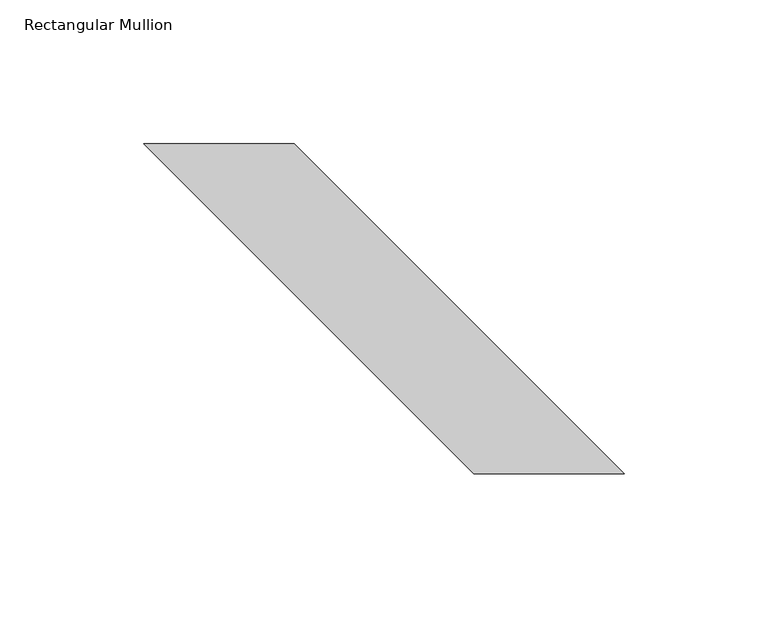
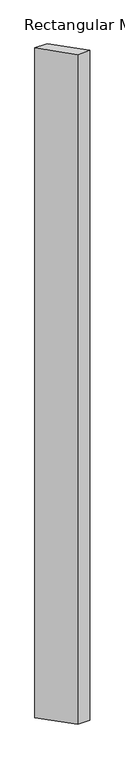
"""IFC4 building model written with IfcOpenShell, lengths in millimetres: member geometry, Rectangular Mullion : RSen_21_CWM_blade - linear 200_gen_duco projects."""

import ifcopenshell
import ifcopenshell.guid

model = None  # the IFC model being written
_history = None  # IfcOwnerHistory: only IFC2X3 demands one
_inside = {}  # id of a spatial element -> (the spatial element, [elements in it])
_under = {}  # id of a project, library or spatial element -> (it, [spatial elements below it])
_declared = {}  # id of a project -> (the project, [libraries it declares])
_typed = {}  # id of a type object -> (the type object, [elements of that type])
_made_of = {}  # id of a material, layer set ... -> (it, [elements and type objects made of it])


def new_model(schema):
    """Start an empty IFC model of exactly this schema.

    Asked for "IFC4X3", IfcOpenShell would pick the latest addendum, in which some entities
    have other attributes; the version numbers below select the first issue.
    IFC2X3 requires an IfcOwnerHistory on every rooted entity: one is made here for all.
    """
    global model, _history
    if schema == "IFC4X3":
        model = ifcopenshell.file(schema_version=(4, 3, 0, 0))
    else:
        model = ifcopenshell.file(schema=schema)
    _inside.clear()
    _under.clear()
    _declared.clear()
    _typed.clear()
    _made_of.clear()
    _history = None
    if model.schema == "IFC2X3":
        org = make("IfcOrganization", Name="unknown")
        user = make(
            "IfcPersonAndOrganization",
            ThePerson=make("IfcPerson", FamilyName="unknown"),
            TheOrganization=org,
        )
        app = make(
            "IfcApplication",
            ApplicationDeveloper=org,
            Version="unknown",
            ApplicationFullName="unknown",
            ApplicationIdentifier="unknown",
        )
        _history = make(
            "IfcOwnerHistory",
            OwningUser=user,
            OwningApplication=app,
            ChangeAction="ADDED",
            CreationDate=0,
        )
    return model


def make(cls, **values):
    """One entity of the class cls with the attributes given. An attribute that is None is left unset."""
    return model.create_entity(
        cls, **{name: value for name, value in values.items() if value is not None}
    )


def rooted(cls, **values):
    """An entity with a GlobalId (a new one), such as an element, a storey or a relation."""
    return make(cls, GlobalId=ifcopenshell.guid.new(), OwnerHistory=_history, **values)


def si_unit(unit_type, name, prefix=None):
    """IfcSIUnit, for example si_unit("LENGTHUNIT", "METRE", prefix="MILLI")."""
    return make("IfcSIUnit", UnitType=unit_type, Prefix=prefix, Name=name)


def assignment(units):
    """IfcUnitAssignment: the units of a project."""
    return None if units is None else make("IfcUnitAssignment", Units=units)


def point(xyz):
    """IfcCartesianPoint."""
    return None if xyz is None else make("IfcCartesianPoint", Coordinates=xyz)


def direction(xyz):
    """IfcDirection."""
    return None if xyz is None else make("IfcDirection", DirectionRatios=xyz)


def frame(location, z_axis=None, x_axis=None):
    """IfcAxis2Placement3D, a coordinate frame: its origin and axes. An axis left out is left unset."""
    return make(
        "IfcAxis2Placement3D",
        Location=point(location),
        Axis=direction(z_axis),
        RefDirection=direction(x_axis),
    )


def origin():
    """The frame at (0, 0, 0) with its axes left unset."""
    return frame((0.0, 0.0, 0.0))


def place(relative_to, where):
    """IfcLocalPlacement: puts the frame where relative to a parent placement (None: the world)."""
    return make(
        "IfcLocalPlacement", PlacementRelTo=relative_to, RelativePlacement=where
    )


def context(
    kind, dimensions, precision=None, world=None, true_north=None, identifier=None
):
    """IfcGeometricRepresentationContext, for example the 3D "Model" context."""
    return make(
        "IfcGeometricRepresentationContext",
        ContextIdentifier=identifier,
        ContextType=kind,
        CoordinateSpaceDimension=dimensions,
        Precision=precision,
        WorldCoordinateSystem=world,
        TrueNorth=true_north,
    )


def project(units=None, contexts=None):
    """IfcProject with its units and contexts."""
    return rooted(
        "IfcProject",
        Name="project",
        RepresentationContexts=contexts,
        UnitsInContext=assignment(units),
    )


def spatial(cls, under=None, at=None, **own):
    """A site, building, storey or space (cls), placed at a placement, below another one or the project."""
    s = rooted(cls, ObjectPlacement=at, **own)
    if under is not None:
        _under.setdefault(under.id(), (under, []))[1].append(s)
    return s


def polyline(points):
    """IfcPolyline through the points."""
    return make("IfcPolyline", Points=[point(p) for p in points])


def outline(outer, holes=None, kind="AREA"):
    """IfcArbitraryClosedProfileDef: a profile drawn as a closed curve; with holes, ...WithVoids."""
    if holes is None:
        return make("IfcArbitraryClosedProfileDef", ProfileType=kind, OuterCurve=outer)
    return make(
        "IfcArbitraryProfileDefWithVoids",
        ProfileType=kind,
        OuterCurve=outer,
        InnerCurves=holes,
    )


def extrude(swept, where, along, depth):
    """IfcExtrudedAreaSolid: the profile swept, set in the frame where, extruded along a direction by depth."""
    return make(
        "IfcExtrudedAreaSolid",
        SweptArea=swept,
        Position=where,
        ExtrudedDirection=direction(along),
        Depth=depth,
    )


def shape(context_of_items, identifier, shape_type, items):
    """IfcShapeRepresentation: the items that make up one representation, for example the "Body"."""
    return make(
        "IfcShapeRepresentation",
        ContextOfItems=context_of_items,
        RepresentationIdentifier=identifier,
        RepresentationType=shape_type,
        Items=items,
    )


def source(mapping_origin, context_of_items, identifier, shape_type, items):
    """IfcRepresentationMap: a shape defined once, which mapped items show again and again."""
    return make(
        "IfcRepresentationMap",
        MappingOrigin=mapping_origin,
        MappedRepresentation=shape(context_of_items, identifier, shape_type, items),
    )


def transform(
    local_origin,
    x_axis=None,
    y_axis=None,
    z_axis=None,
    scale=None,
    scale2=None,
    scale3=None,
    uniform=True,
):
    """IfcCartesianTransformationOperator3D, or its non-uniform kind. x_axis, y_axis, z_axis: its Axis1, 2, 3."""
    if uniform:
        return make(
            "IfcCartesianTransformationOperator3D",
            Axis1=direction(x_axis),
            Axis2=direction(y_axis),
            LocalOrigin=point(local_origin),
            Scale=scale,
            Axis3=direction(z_axis),
        )
    return make(
        "IfcCartesianTransformationOperator3DnonUniform",
        Axis1=direction(x_axis),
        Axis2=direction(y_axis),
        LocalOrigin=point(local_origin),
        Scale=scale,
        Axis3=direction(z_axis),
        Scale2=scale2,
        Scale3=scale3,
    )


def mapped(mapping_source, mapping_target):
    """IfcMappedItem: shows the shape of a source again, moved by a transform."""
    return make(
        "IfcMappedItem", MappingSource=mapping_source, MappingTarget=mapping_target
    )


def made_of(thing, what):
    """Note that an element or type object is made of a material, layer set ...; save() writes the relation."""
    if what is not None:
        _made_of.setdefault(what.id(), (what, []))[1].append(thing)
    return thing


def element(
    cls,
    number,
    at=None,
    inside=None,
    cuts=None,
    type_object=None,
    material=None,
    context=None,
    identifier="Body",
    shape_type=None,
    held_by="IfcProductDefinitionShape",
    body=None,
    shapes=None,
    **own,
):
    """One element of the class cls, such as IfcWall. Its Tag is "e" and its number.

    at: its placement. inside: the storey or other place that contains it. cuts: it is an
    opening in that element (IfcRelVoidsElement). A single representation is given by context,
    identifier, shape_type and body (its items); several are given by shapes. held_by: the class
    of the entity that holds the representations. save() writes the other relations.
    """
    e = rooted(cls, Tag="e%d" % number, ObjectPlacement=at, **own)
    if body is not None:
        shapes = [shape(context, identifier, shape_type, body)]
    if shapes is not None:
        e.Representation = make(held_by, Representations=shapes)
    if inside is not None:
        _inside.setdefault(inside.id(), (inside, []))[1].append(e)
    if cuts is not None:
        rooted(
            "IfcRelVoidsElement", RelatingBuildingElement=cuts, RelatedOpeningElement=e
        )
    if type_object is not None:
        _typed.setdefault(type_object.id(), (type_object, []))[1].append(e)
    return made_of(e, material)


def aggregate(whole, parts):
    """IfcRelAggregates: a whole, such as a stair, and the parts it consists of."""
    return rooted("IfcRelAggregates", RelatingObject=whole, RelatedObjects=parts)


def save(model, path):
    """Write the relations noted so far, then the file.

    IfcRelAggregates (storeys below a building ...), IfcRelContainedInSpatialStructure (elements
    in a storey), IfcRelDefinesByType, IfcRelAssociatesMaterial and IfcRelDeclares: one each for
    every whole, place, type object, material and project.
    """
    for whole, parts in _under.values():
        aggregate(whole, parts)
    for where, things in _inside.values():
        rooted(
            "IfcRelContainedInSpatialStructure",
            RelatedElements=things,
            RelatingStructure=where,
        )
    for kind, things in _typed.values():
        rooted("IfcRelDefinesByType", RelatedObjects=things, RelatingType=kind)
    for what, things in _made_of.values():
        rooted("IfcRelAssociatesMaterial", RelatedObjects=things, RelatingMaterial=what)
    for by, libraries in _declared.values():
        rooted("IfcRelDeclares", RelatingContext=by, RelatedDefinitions=libraries)
    model.write(path)


def rectangular_mullion_321bab66(model_context):
    return source(origin(), model_context, "Body", "SweptSolid", [
        extrude(outline(polyline([(31.1126984, 8.7243507), (-83.4386002, 123.2756493), (-31.1126984, 123.2756493), (83.4386002, 8.7243507), (31.1126984, 8.7243507)])), frame((0.0, 0.0, -3000.0), z_axis=(0.0, 0.0, 1.0), x_axis=(1.0, 0.0, 0.0)), (0.0, 0.0, 1.0), 3000.0),
    ])


if __name__ == "__main__":
    model = new_model("IFC4")
    model_context = context("Model", 3, world=origin())
    ifc_project = project(units=[si_unit("LENGTHUNIT", "METRE", prefix="MILLI")], contexts=[model_context])
    site = spatial("IfcSite", under=ifc_project)
    building = spatial("IfcBuilding", under=site)
    placement = place(None, origin())
    rectangular_mullion_shape = rectangular_mullion_321bab66(model_context)
    element("IfcMember", 1, ObjectType="Rectangular Mullion : RSen_21_CWM_blade - linear 200_gen_duco projects", at=placement, inside=building, context=model_context, shape_type="MappedRepresentation", body=[
        mapped(rectangular_mullion_shape, transform((0.0, 0.0, 0.0), x_axis=(1.0, 0.0, 0.0), y_axis=(0.0, 1.0, 0.0), z_axis=(0.0, 0.0, 1.0))),
    ])
    save(model, "model.ifc")
